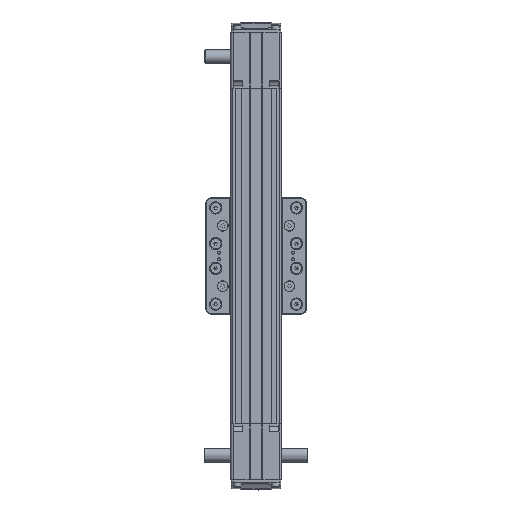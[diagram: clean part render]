
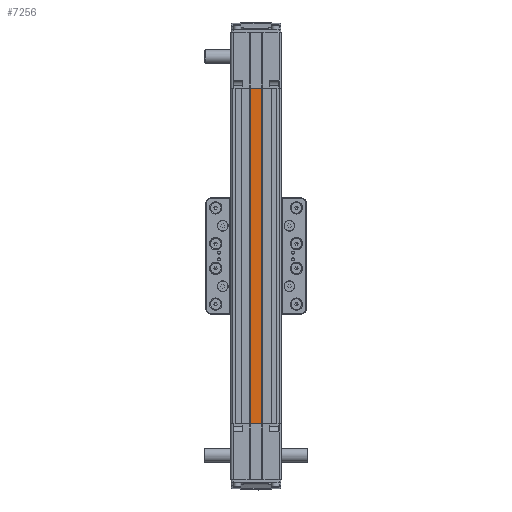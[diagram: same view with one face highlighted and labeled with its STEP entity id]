
A CAD part, front view. The second image highlights one B-rep face of the part: STEP entity #7256.
In plain terms, the highlighted planar face has unit normal (0, -1, 0).
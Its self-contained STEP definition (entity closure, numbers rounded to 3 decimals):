
#224 = DIRECTION ( 'NONE',  ( 0., 0., -1. ) ) ;
#2649 = ORIENTED_EDGE ( 'NONE', *, *, #77371, .F. ) ;
#3206 = DIRECTION ( 'NONE',  ( 0., 0., 1. ) ) ;
#7256 = ADVANCED_FACE ( 'NONE', ( #16994 ), #63234, .F. ) ;
#10646 = EDGE_CURVE ( 'NONE', #59113, #53935, #77446, .T. ) ;
#10756 = EDGE_CURVE ( 'NONE', #97109, #59113, #84513, .T. ) ;
#16994 = FACE_OUTER_BOUND ( 'NONE', #31777, .T. ) ;
#19069 = CARTESIAN_POINT ( 'NONE',  ( 0., -21.5, 150. ) ) ;
#19808 = DIRECTION ( 'NONE',  ( 0., 0., -1. ) ) ;
#23884 = CARTESIAN_POINT ( 'NONE',  ( -5., -21.5, -150. ) ) ;
#25997 = DIRECTION ( 'NONE',  ( 0., 1., 0. ) ) ;
#31777 = EDGE_LOOP ( 'NONE', ( #82191, #35959, #2649, #64337 ) ) ;
#32654 = VECTOR ( 'NONE', #19808, 1000. ) ;
#34984 = VECTOR ( 'NONE', #44286, 1000. ) ;
#35959 = ORIENTED_EDGE ( 'NONE', *, *, #62422, .F. ) ;
#37462 = LINE ( 'NONE', #87649, #60995 ) ;
#44286 = DIRECTION ( 'NONE',  ( 1., 0., 0. ) ) ;
#47127 = VERTEX_POINT ( 'NONE', #61975 ) ;
#49170 = AXIS2_PLACEMENT_3D ( 'NONE', #19069, #25997, #3206 ) ;
#51578 = LINE ( 'NONE', #57649, #32654 ) ;
#53935 = VERTEX_POINT ( 'NONE', #56574 ) ;
#56574 = CARTESIAN_POINT ( 'NONE',  ( 5., -21.5, -150. ) ) ;
#57649 = CARTESIAN_POINT ( 'NONE',  ( 5., -21.5, 150. ) ) ;
#59113 = VERTEX_POINT ( 'NONE', #23884 ) ;
#60995 = VECTOR ( 'NONE', #72202, 1000. ) ;
#61975 = CARTESIAN_POINT ( 'NONE',  ( 5., -21.5, 150. ) ) ;
#62422 = EDGE_CURVE ( 'NONE', #47127, #53935, #51578, .T. ) ;
#63234 = PLANE ( 'NONE',  #49170 ) ;
#64337 = ORIENTED_EDGE ( 'NONE', *, *, #10756, .T. ) ;
#68771 = CARTESIAN_POINT ( 'NONE',  ( -5., -21.5, 150. ) ) ;
#72202 = DIRECTION ( 'NONE',  ( 1., 0., 0. ) ) ;
#72362 = CARTESIAN_POINT ( 'NONE',  ( -5., -21.5, 150. ) ) ;
#77371 = EDGE_CURVE ( 'NONE', #97109, #47127, #37462, .T. ) ;
#77446 = LINE ( 'NONE', #89753, #34984 ) ;
#82164 = VECTOR ( 'NONE', #224, 1000. ) ;
#82191 = ORIENTED_EDGE ( 'NONE', *, *, #10646, .T. ) ;
#84513 = LINE ( 'NONE', #68771, #82164 ) ;
#87649 = CARTESIAN_POINT ( 'NONE',  ( 0., -21.5, 150. ) ) ;
#89753 = CARTESIAN_POINT ( 'NONE',  ( 0., -21.5, -150. ) ) ;
#97109 = VERTEX_POINT ( 'NONE', #72362 ) ;
